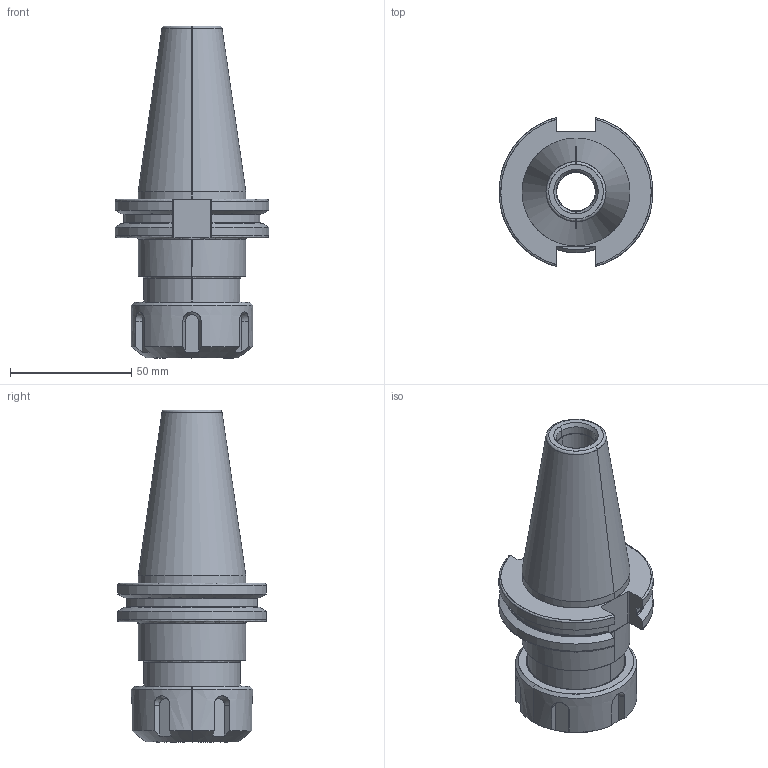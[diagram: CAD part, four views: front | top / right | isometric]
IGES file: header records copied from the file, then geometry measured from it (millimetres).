
Start section: SolidWorks IGES file using analytic representation for surfaces
Global section: file name: C:\ProgramData\Alignex\DDS\processing\files\C4C3-0032\igs\C4C3-0032.igs; native system: SolidWorks 2013; preprocessor: SolidWorks 2013; author: SYSTEM; date: 130211.152608; units: inch
Bounding box: 63.47 x 61.35 x 136.83 mm (x, y, z)
Surface area: 35636.4 mm2 (no closed solid volume)
Topology: 0 solids, 0 shells, 354 faces, 5246 edges, 5244 vertices
Faces by surface type: bspline 268, revolution 86
